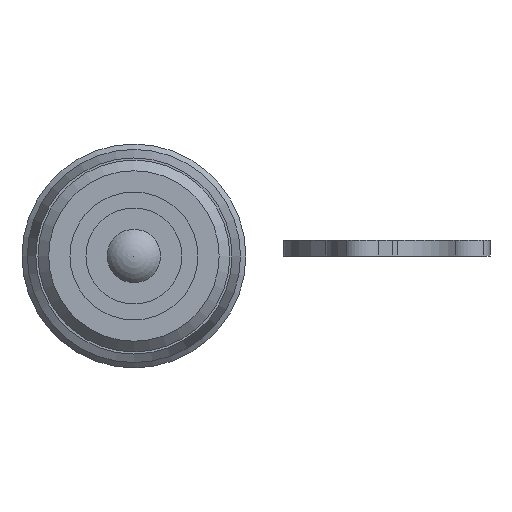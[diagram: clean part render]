
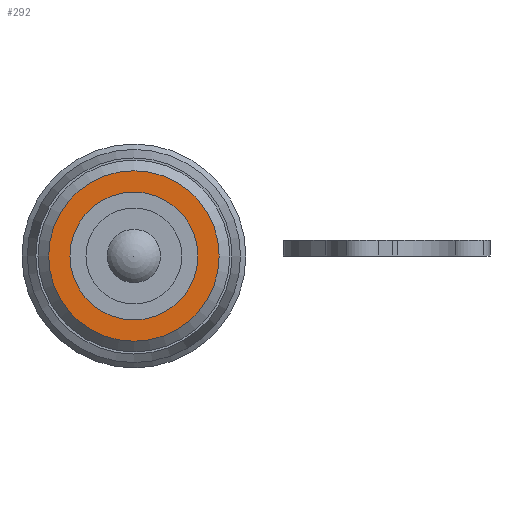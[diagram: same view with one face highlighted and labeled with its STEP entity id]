
A CAD part, left-side view. The second image highlights one B-rep face of the part: STEP entity #292.
In plain terms, the highlighted planar face has unit normal (-1, 0, 0).
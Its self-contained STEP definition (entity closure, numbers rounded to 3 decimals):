
#292 = ADVANCED_FACE( '', ( #410, #411 ), #412, .T. );
#410 = FACE_OUTER_BOUND( '', #581, .T. );
#411 = FACE_BOUND( '', #582, .T. );
#412 = PLANE( '', #583 );
#581 = EDGE_LOOP( '', ( #802 ) );
#582 = EDGE_LOOP( '', ( #803 ) );
#583 = AXIS2_PLACEMENT_3D( '', #804, #805, #806 );
#802 = ORIENTED_EDGE( '', *, *, #1173, .F. );
#803 = ORIENTED_EDGE( '', *, *, #1165, .T. );
#804 = CARTESIAN_POINT( '', ( 39.5, 20.2, 0. ) );
#805 = DIRECTION( '', ( -1., 0., 0. ) );
#806 = DIRECTION( '', ( 0., 0., 1. ) );
#1165 = EDGE_CURVE( '', #1311, #1311, #1312, .F. );
#1173 = EDGE_CURVE( '', #1327, #1327, #1328, .F. );
#1311 = VERTEX_POINT( '', #1537 );
#1312 = CIRCLE( '', #1538, 4.75 );
#1327 = VERTEX_POINT( '', #1553 );
#1328 = CIRCLE( '', #1554, 8. );
#1537 = CARTESIAN_POINT( '', ( 39.5, 0., 4.75 ) );
#1538 = AXIS2_PLACEMENT_3D( '', #1840, #1841, #1842 );
#1553 = CARTESIAN_POINT( '', ( 39.5, 0., 8. ) );
#1554 = AXIS2_PLACEMENT_3D( '', #1864, #1865, #1866 );
#1840 = CARTESIAN_POINT( '', ( 39.5, 0., 0. ) );
#1841 = DIRECTION( '', ( -1., 0., 0. ) );
#1842 = DIRECTION( '', ( 0., 0., 1. ) );
#1864 = CARTESIAN_POINT( '', ( 39.5, 0., 0. ) );
#1865 = DIRECTION( '', ( -1., 0., 0. ) );
#1866 = DIRECTION( '', ( 0., 0., 1. ) );
